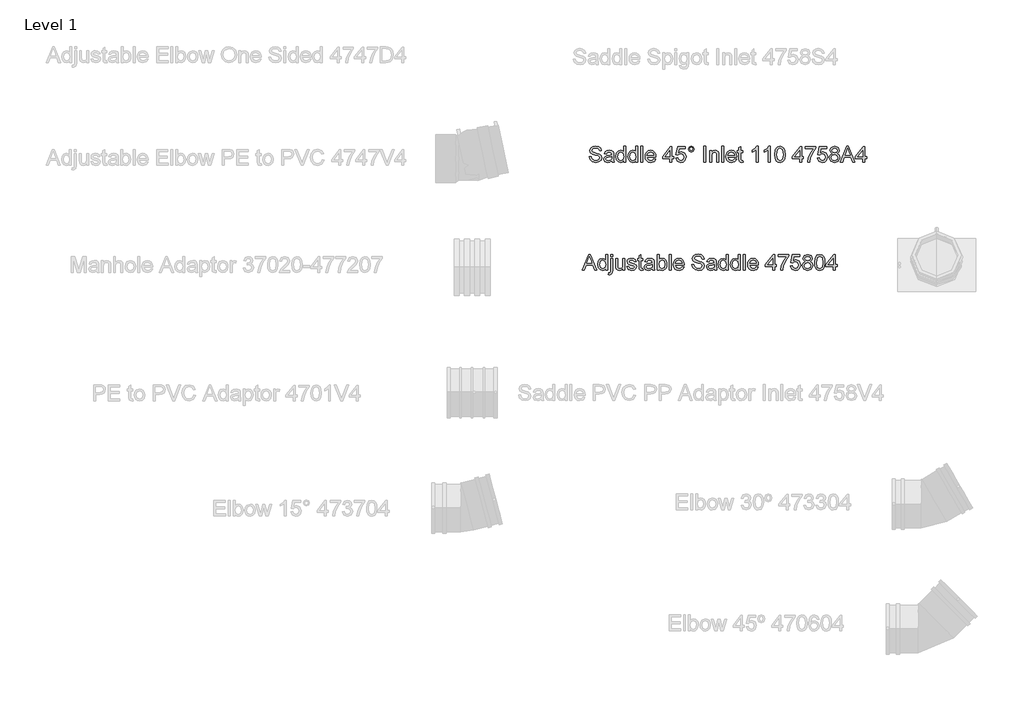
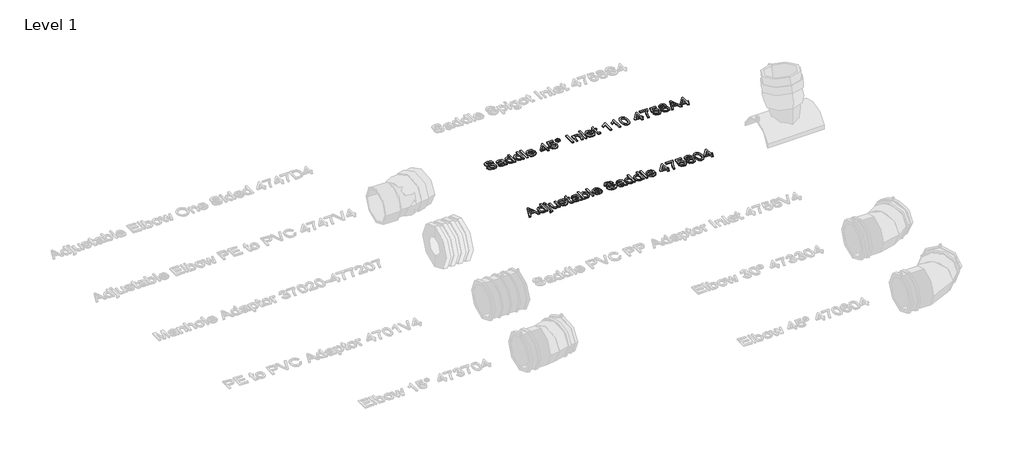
# One storey, part 38 of 38: 2 proxies.
"""IFC4 building model written with IfcOpenShell, lengths in millimetres."""

from ifc_helpers import new_model, si_unit, origin, origin_with_axes, place, context, project, spatial, polyline, outline, extrude, element, save

model = new_model("IFC4")

# Units and contexts
model_context = context("Model", 3, world=origin())
ifc_project = project(units=[si_unit("LENGTHUNIT", "METRE", prefix="MILLI")], contexts=[model_context])

# Site, building, storey
site = spatial("IfcSite", under=ifc_project)
building = spatial("IfcBuilding", under=site)
storey = spatial("IfcBuildingStorey", under=building, Name="Level 1", Elevation=0.0)

# Proxies
placement = place(None, origin())
element("IfcBuildingElementProxy", 1, Name="100 mm Arial", ObjectType="100 mm Arial", at=placement, inside=storey, context=model_context, shape_type="SweptSolid", body=[
    extrude(outline(polyline([(25836.3086763, 4423.9604372), (25843.6932917, 4423.9604372), (25846.0730993, 4416.5686103), (25851.8855993, 4411.8955334), (25860.7413686, 4410.1142834), (25868.4577147, 4411.4628411), (25873.4408878, 4415.1695718), (25875.077907, 4420.1238988), (25873.8519455, 4424.7320718), (25868.8327147, 4428.0854372), (25858.0803109, 4430.9051488), (25846.5057917, 4434.5469757), (25840.2245417, 4440.042168), (25838.1548301, 4447.3835141), (25840.7149263, 4455.7416872), (25848.1932917, 4461.6407257), (25859.140407, 4463.6527449), (25870.8230993, 4461.5469757), (25878.6115609, 4455.3594757), (25881.5394455, 4446.1142834), (25874.1548301, 4446.1142834), (25869.9721378, 4453.7008218), (25859.4288686, 4456.2681295), (25848.8567532, 4453.729668), (25845.5394455, 4447.5998603), (25847.890407, 4442.479668), (25859.9480993, 4438.354668), (25873.015407, 4434.6479372), (25880.1620417, 4428.6623603), (25882.4625224, 4420.3113988), (25879.8158878, 4411.4772641), (25872.2005032, 4405.0301488), (25861.0298301, 4402.729668), (25847.8399263, 4405.2104372), (25839.4961763, 4412.6815911), (25836.3086763, 4423.9604372)])), origin_with_axes(), (0.0, 0.0, 1.0), 5.0),
    extrude(outline(polyline([(25920.3086763, 4409.1912065), (25913.1476186, 4404.1863988), (25905.2365609, 4402.729668), (25894.5130032, 4406.2344757), (25890.7702147, 4415.1912065), (25892.1836763, 4421.0325526), (25895.8976186, 4425.2729372), (25901.0682917, 4427.6960141), (25907.4577147, 4428.8065911), (25920.265407, 4431.3450526), (25920.3086763, 4432.9892834), (25918.2750224, 4438.4412065), (25910.1115609, 4440.5758218), (25902.640407, 4439.1551488), (25899.077907, 4434.1142834), (25891.6932917, 4435.0373603), (25894.8880032, 4442.2488988), (25901.3206955, 4446.4748603), (25911.063484, 4447.9604372), (25920.0130032, 4446.6479372), (25925.0682917, 4443.3522641), (25927.3327147, 4438.3402449), (25927.6932917, 4431.8787065), (25927.6932917, 4422.6912065), (25928.0682917, 4409.8618795), (25929.5394455, 4403.6527449), (25922.1548301, 4403.6527449), (25920.3086763, 4409.1912065)]), holes=[polyline([(25920.3086763, 4423.9604372), (25908.3952147, 4421.6960141), (25902.0418493, 4420.4988988), (25899.1644455, 4418.5517834), (25898.1548301, 4415.7104372), (25900.3543493, 4411.7152449), (25906.8086763, 4410.1142834), (25914.2798301, 4411.8811103), (25919.0971378, 4416.1575526), (25920.265407, 4421.8690911), (25920.3086763, 4423.9604372)])]), origin_with_axes(), (0.0, 0.0, 1.0), 5.0),
    extrude(outline(polyline([(25964.6163686, 4403.6527449), (25964.6163686, 4410.6190911), (25959.7305513, 4404.7020238), (25952.9769455, 4402.729668), (25943.8327147, 4405.5854372), (25937.3711763, 4413.5541872), (25935.077907, 4425.3017834), (25937.1908878, 4437.0565911), (25943.5226186, 4445.1479372), (25952.9480993, 4447.9604372), (25959.7557917, 4445.948418), (25964.6163686, 4440.7200526), (25964.6163686, 4462.729668), (25972.000984, 4462.729668), (25972.000984, 4403.6527449), (25964.6163686, 4403.6527449)]), holes=[polyline([(25942.4625224, 4425.3306295), (25945.7942532, 4413.9003411), (25953.6548301, 4410.1142834), (25961.421657, 4413.7272641), (25964.6163686, 4424.7681295), (25961.3639647, 4436.7537065), (25953.3519455, 4440.5758218), (25945.577907, 4436.9051488), (25942.4625224, 4425.3306295)])]), origin_with_axes(), (0.0, 0.0, 1.0), 5.0),
    extrude(outline(polyline([(26009.8471378, 4403.6527449), (26009.8471378, 4410.6190911), (26004.9613205, 4404.7020238), (25998.2077147, 4402.729668), (25989.063484, 4405.5854372), (25982.6019455, 4413.5541872), (25980.3086763, 4425.3017834), (25982.421657, 4437.0565911), (25988.7533878, 4445.1479372), (25998.1788686, 4447.9604372), (26004.9865609, 4445.948418), (26009.8471378, 4440.7200526), (26009.8471378, 4462.729668), (26017.2317532, 4462.729668), (26017.2317532, 4403.6527449), (26009.8471378, 4403.6527449)]), holes=[polyline([(25987.6932917, 4425.3306295), (25991.0250224, 4413.9003411), (25998.8855993, 4410.1142834), (26006.6524263, 4413.7272641), (26009.8471378, 4424.7681295), (26006.594734, 4436.7537065), (25998.5827147, 4440.5758218), (25990.8086763, 4436.9051488), (25987.6932917, 4425.3306295)])]), origin_with_axes(), (0.0, 0.0, 1.0), 5.0),
    extrude(outline(polyline([(26028.3086763, 4403.6527449), (26028.3086763, 4462.729668), (26035.6932917, 4462.729668), (26035.6932917, 4403.6527449), (26028.3086763, 4403.6527449)])), origin_with_axes(), (0.0, 0.0, 1.0), 5.0),
    extrude(outline(polyline([(26077.1452147, 4416.5758218), (26084.3855993, 4415.6527449), (26077.6139647, 4406.1190911), (26065.000984, 4402.729668), (26056.3363205, 4404.1918074), (26049.6692532, 4408.5782257), (26045.4180513, 4415.604067), (26044.000984, 4424.9844757), (26045.4324743, 4434.6803891), (26049.7269455, 4441.9315911), (26056.3038686, 4446.4532257), (26064.5827147, 4447.9604372), (26072.6037484, 4446.4568315), (26079.0130032, 4441.9460141), (26083.2155272, 4434.7092353), (26084.6163686, 4425.0277449), (26084.5730993, 4423.0373603), (26051.3855993, 4423.0373603), (26055.6331955, 4413.4460141), (26065.1452147, 4410.1142834), (26072.3855993, 4411.6575526), (26077.1452147, 4416.5758218)]), holes=[polyline([(26051.3855993, 4430.4219757), (26077.2317532, 4430.4219757), (26074.2750224, 4437.1142834), (26064.5538686, 4440.5758218), (26055.4601186, 4437.8138026), (26051.3855993, 4430.4219757)])]), origin_with_axes(), (0.0, 0.0, 1.0), 5.0),
    extrude(outline(polyline([(26137.2317532, 4403.6527449), (26137.2317532, 4417.4988988), (26110.4625224, 4417.4988988), (26110.4625224, 4424.8835141), (26139.077907, 4461.8065911), (26144.6163686, 4461.8065911), (26144.6163686, 4424.8835141), (26152.000984, 4424.8835141), (26152.000984, 4417.4988988), (26144.6163686, 4417.4988988), (26144.6163686, 4403.6527449), (26137.2317532, 4403.6527449)]), holes=[polyline([(26137.2317532, 4424.8835141), (26137.2317532, 4447.7008218), (26119.5490609, 4424.8835141), (26137.2317532, 4424.8835141)])]), origin_with_axes(), (0.0, 0.0, 1.0), 5.0),
    extrude(outline(polyline([(26158.4625224, 4419.3450526), (26165.8471378, 4420.2681295), (26169.5682917, 4412.6599565), (26177.2846378, 4410.1142834), (26186.5442532, 4413.6551488), (26189.8471378, 4423.0517834), (26186.7533878, 4431.8210141), (26177.4000224, 4435.0373603), (26170.9168493, 4433.7537065), (26166.7702147, 4430.4219757), (26159.3855993, 4431.3450526), (26165.8471378, 4461.8065911), (26194.4625224, 4461.8065911), (26194.4625224, 4454.4219757), (26171.8182917, 4454.4219757), (26168.6596378, 4438.1527449), (26179.4625224, 4442.4219757), (26192.0899263, 4437.1287065), (26197.2317532, 4423.5133218), (26192.6019455, 4409.8113988), (26185.952907, 4404.5001007), (26177.2557917, 4402.729668), (26164.2245417, 4407.2801488), (26158.4625224, 4419.3450526)])), origin_with_axes(), (0.0, 0.0, 1.0), 5.0),
    extrude(outline(polyline([(26205.5394455, 4452.5902449), (26208.7918493, 4460.4219757), (26216.6019455, 4463.6527449), (26224.4625224, 4460.4219757), (26227.6932917, 4452.5902449), (26224.4408878, 4444.7513026), (26216.6019455, 4441.4988988), (26208.7918493, 4444.729668), (26205.5394455, 4452.5902449)]), holes=[polyline([(26210.1548301, 4452.5758218), (26212.0514647, 4448.0037065), (26216.6307917, 4446.1142834), (26221.1812724, 4448.0037065), (26223.077907, 4452.5758218), (26221.1812724, 4457.1479372), (26216.6307917, 4459.0373603), (26212.0514647, 4457.1479372), (26210.1548301, 4452.5758218)])]), origin_with_axes(), (0.0, 0.0, 1.0), 5.0),
    extrude(outline(polyline([(26263.6932917, 4403.6527449), (26263.6932917, 4462.729668), (26271.077907, 4462.729668), (26271.077907, 4403.6527449), (26263.6932917, 4403.6527449)])), origin_with_axes(), (0.0, 0.0, 1.0), 5.0),
    extrude(outline(polyline([(26284.9240609, 4403.6527449), (26284.9240609, 4447.0373603), (26292.3086763, 4447.0373603), (26292.3086763, 4440.979668), (26297.9553109, 4446.2152449), (26305.6644455, 4447.9604372), (26312.6380032, 4446.5541872), (26317.3976186, 4442.8618795), (26319.6115609, 4437.4315911), (26320.000984, 4430.292168), (26320.000984, 4403.6527449), (26312.6163686, 4403.6527449), (26312.6163686, 4429.2969757), (26311.765407, 4435.8306295), (26308.7581955, 4439.2849565), (26303.688484, 4440.5758218), (26295.6764647, 4437.6767834), (26292.3086763, 4426.6719757), (26292.3086763, 4403.6527449), (26284.9240609, 4403.6527449)])), origin_with_axes(), (0.0, 0.0, 1.0), 5.0),
    extrude(outline(polyline([(26330.1548301, 4403.6527449), (26330.1548301, 4462.729668), (26337.5394455, 4462.729668), (26337.5394455, 4403.6527449), (26330.1548301, 4403.6527449)])), origin_with_axes(), (0.0, 0.0, 1.0), 5.0),
    extrude(outline(polyline([(26378.9913686, 4416.5758218), (26386.2317532, 4415.6527449), (26379.4601186, 4406.1190911), (26366.8471378, 4402.729668), (26358.1824743, 4404.1918074), (26351.515407, 4408.5782257), (26347.2642051, 4415.604067), (26345.8471378, 4424.9844757), (26347.2786282, 4434.6803891), (26351.5730993, 4441.9315911), (26358.1500224, 4446.4532257), (26366.4288686, 4447.9604372), (26374.4499022, 4446.4568315), (26380.859157, 4441.9460141), (26385.0616811, 4434.7092353), (26386.4625224, 4425.0277449), (26386.4192532, 4423.0373603), (26353.2317532, 4423.0373603), (26357.4793493, 4413.4460141), (26366.9913686, 4410.1142834), (26374.2317532, 4411.6575526), (26378.9913686, 4416.5758218)]), holes=[polyline([(26353.2317532, 4430.4219757), (26379.077907, 4430.4219757), (26376.1211763, 4437.1142834), (26366.4000224, 4440.5758218), (26357.3062724, 4437.8138026), (26353.2317532, 4430.4219757)])]), origin_with_axes(), (0.0, 0.0, 1.0), 5.0),
    extrude(outline(polyline([(26409.5394455, 4409.8113988), (26410.4625224, 4403.4363988), (26404.938484, 4402.729668), (26398.750984, 4403.9556295), (26395.6644455, 4407.1719757), (26394.7702147, 4415.5517834), (26394.7702147, 4439.6527449), (26389.2317532, 4439.6527449), (26389.2317532, 4447.0373603), (26394.7702147, 4447.0373603), (26394.7702147, 4457.5806295), (26402.1548301, 4461.9219757), (26402.1548301, 4447.0373603), (26409.5394455, 4447.0373603), (26409.5394455, 4439.6527449), (26402.1548301, 4439.6527449), (26402.1548301, 4415.7681295), (26402.5442532, 4411.9604372), (26403.8062724, 4410.6118795), (26406.3230993, 4410.1142834), (26409.5394455, 4409.8113988)])), origin_with_axes(), (0.0, 0.0, 1.0), 5.0),
    extrude(outline(polyline([(26465.8471378, 4403.6527449), (26458.4625224, 4403.6527449), (26458.4625224, 4449.6912065), (26451.4673301, 4444.7080334), (26443.6932917, 4440.979668), (26443.6932917, 4447.9604372), (26454.5178109, 4454.8690911), (26461.0875224, 4462.729668), (26465.8471378, 4462.729668), (26465.8471378, 4403.6527449)])), origin_with_axes(), (0.0, 0.0, 1.0), 5.0),
    extrude(outline(polyline([(26511.077907, 4403.6527449), (26503.6932917, 4403.6527449), (26503.6932917, 4449.6912065), (26496.6980993, 4444.7080334), (26488.9240609, 4440.979668), (26488.9240609, 4447.9604372), (26499.7485801, 4454.8690911), (26506.3182917, 4462.729668), (26511.077907, 4462.729668), (26511.077907, 4403.6527449)])), origin_with_axes(), (0.0, 0.0, 1.0), 5.0),
    extrude(outline(polyline([(26528.6163686, 4432.7152449), (26530.7870417, 4449.7128411), (26537.234157, 4459.5133218), (26548.000984, 4462.729668), (26556.625984, 4460.8258218), (26562.5827147, 4455.3378411), (26566.0442532, 4446.5974565), (26567.3855993, 4432.7152449), (26565.2365609, 4415.7897641), (26558.8110801, 4405.9676488), (26548.000984, 4402.729668), (26540.327907, 4404.135918), (26534.500984, 4408.354668), (26530.0875224, 4418.3462545), (26528.6163686, 4432.7152449)]), holes=[polyline([(26536.000984, 4432.729668), (26539.4625224, 4414.3907257), (26548.000984, 4410.1142834), (26556.5394455, 4414.4051488), (26560.000984, 4432.729668), (26556.6548301, 4450.8594757), (26547.9144455, 4455.3450526), (26539.577907, 4451.3931295), (26536.000984, 4432.729668)])]), origin_with_axes(), (0.0, 0.0, 1.0), 5.0),
    extrude(outline(polyline([(26620.9240609, 4403.6527449), (26620.9240609, 4417.4988988), (26594.1548301, 4417.4988988), (26594.1548301, 4424.8835141), (26622.7702147, 4461.8065911), (26628.3086763, 4461.8065911), (26628.3086763, 4424.8835141), (26635.6932917, 4424.8835141), (26635.6932917, 4417.4988988), (26628.3086763, 4417.4988988), (26628.3086763, 4403.6527449), (26620.9240609, 4403.6527449)]), holes=[polyline([(26620.9240609, 4424.8835141), (26620.9240609, 4447.7008218), (26603.2413686, 4424.8835141), (26620.9240609, 4424.8835141)])]), origin_with_axes(), (0.0, 0.0, 1.0), 5.0),
    extrude(outline(polyline([(26642.1548301, 4454.4219757), (26642.1548301, 4461.8065911), (26680.9240609, 4461.8065911), (26680.9240609, 4455.8354372), (26669.9264647, 4439.948418), (26661.5105993, 4419.7056295), (26658.7702147, 4403.6527449), (26651.3855993, 4403.6527449), (26654.3206955, 4420.3113988), (26662.375984, 4439.1407257), (26673.5394455, 4454.4219757), (26642.1548301, 4454.4219757)])), origin_with_axes(), (0.0, 0.0, 1.0), 5.0),
    extrude(outline(polyline([(26687.3855993, 4419.3450526), (26694.7702147, 4420.2681295), (26698.4913686, 4412.6599565), (26706.2077147, 4410.1142834), (26715.4673301, 4413.6551488), (26718.7702147, 4423.0517834), (26715.6764647, 4431.8210141), (26706.3230993, 4435.0373603), (26699.8399263, 4433.7537065), (26695.6932917, 4430.4219757), (26688.3086763, 4431.3450526), (26694.7702147, 4461.8065911), (26723.3855993, 4461.8065911), (26723.3855993, 4454.4219757), (26700.7413686, 4454.4219757), (26697.5827147, 4438.1527449), (26708.3855993, 4442.4219757), (26721.0130032, 4437.1287065), (26726.1548301, 4423.5133218), (26721.5250224, 4409.8113988), (26714.875984, 4404.5001007), (26706.1788686, 4402.729668), (26693.1476186, 4407.2801488), (26687.3855993, 4419.3450526)])), origin_with_axes(), (0.0, 0.0, 1.0), 5.0),
    extrude(outline(polyline([(26743.375984, 4436.1912065), (26736.6476186, 4440.7777449), (26734.4625224, 4447.917168), (26739.2221378, 4458.4604372), (26751.9000224, 4462.729668), (26764.6932917, 4458.3594757), (26769.5394455, 4447.7152449), (26767.3831955, 4440.7561103), (26760.8423301, 4436.1912065), (26768.6956955, 4430.4003411), (26771.3855993, 4420.8450526), (26766.0490609, 4407.9508218), (26752.000984, 4402.729668), (26737.952907, 4407.9724565), (26732.6163686, 4421.0469757), (26735.4144455, 4430.8258218), (26743.375984, 4436.1912065)]), holes=[polyline([(26741.8471378, 4447.7008218), (26744.4649263, 4441.9027449), (26752.0875224, 4439.6527449), (26759.5586763, 4441.8883218), (26762.1548301, 4447.3690911), (26759.4721378, 4453.0445718), (26752.000984, 4455.3450526), (26744.5081955, 4453.0950526), (26741.8471378, 4447.7008218)]), polyline([(26740.000984, 4421.3065911), (26741.234157, 4415.7464949), (26745.5971378, 4411.5854372), (26752.0586763, 4410.1142834), (26760.8567532, 4413.2080334), (26764.000984, 4421.0758218), (26760.7557917, 4429.0950526), (26751.813484, 4432.2681295), (26743.1235801, 4429.1383218), (26740.000984, 4421.3065911)])]), origin_with_axes(), (0.0, 0.0, 1.0), 5.0),
    extrude(outline(polyline([(26773.7365609, 4403.6527449), (26797.3182917, 4462.729668), (26803.6067532, 4462.729668), (26827.188484, 4403.6527449), (26819.3855993, 4403.6527449), (26812.6211763, 4422.1142834), (26788.2894455, 4422.1142834), (26781.5394455, 4403.6527449), (26773.7365609, 4403.6527449)]), holes=[polyline([(26791.000984, 4429.4988988), (26809.9240609, 4429.4988988), (26804.6019455, 4444.0229372), (26800.4625224, 4455.3450526), (26796.7846378, 4445.292168), (26791.000984, 4429.4988988)])]), origin_with_axes(), (0.0, 0.0, 1.0), 5.0),
    extrude(outline(polyline([(26856.3086763, 4403.6527449), (26856.3086763, 4417.4988988), (26829.5394455, 4417.4988988), (26829.5394455, 4424.8835141), (26858.1548301, 4461.8065911), (26863.6932917, 4461.8065911), (26863.6932917, 4424.8835141), (26871.077907, 4424.8835141), (26871.077907, 4417.4988988), (26863.6932917, 4417.4988988), (26863.6932917, 4403.6527449), (26856.3086763, 4403.6527449)]), holes=[polyline([(26856.3086763, 4424.8835141), (26856.3086763, 4447.7008218), (26838.625984, 4424.8835141), (26856.3086763, 4424.8835141)])]), origin_with_axes(), (0.0, 0.0, 1.0), 5.0),
])
element("IfcBuildingElementProxy", 2, Name="100 mm Arial", ObjectType="100 mm Arial", at=placement, inside=storey, context=model_context, shape_type="SweptSolid", body=[
    extrude(outline(polyline([(25809.8301876, 4000.2509717), (25833.4119184, 4059.3278948), (25839.7003799, 4059.3278948), (25863.2821107, 4000.2509717), (25855.4792261, 4000.2509717), (25848.714803, 4018.7125102), (25824.3830722, 4018.7125102), (25817.6330722, 4000.2509717), (25809.8301876, 4000.2509717)]), holes=[polyline([(25827.0946107, 4026.0971256), (25846.0176876, 4026.0971256), (25840.6955722, 4040.621164), (25836.5561492, 4051.9432794), (25832.8782645, 4041.8903948), (25827.0946107, 4026.0971256)])]), origin_with_axes(), (0.0, 0.0, 1.0), 5.0),
    extrude(outline(polyline([(25897.0176876, 4000.2509717), (25897.0176876, 4007.2173179), (25892.1318703, 4001.3002506), (25885.3782645, 3999.3278948), (25876.2340338, 4002.183664), (25869.7724953, 4010.152414), (25867.4792261, 4021.9000102), (25869.5922068, 4033.6548179), (25875.9239376, 4041.746164), (25885.3494184, 4044.558664), (25892.1571107, 4042.5466448), (25897.0176876, 4037.3182794), (25897.0176876, 4059.3278948), (25904.402303, 4059.3278948), (25904.402303, 4000.2509717), (25897.0176876, 4000.2509717)]), holes=[polyline([(25874.8638415, 4021.9288563), (25878.1955722, 4010.4985679), (25886.0561492, 4006.7125102), (25893.8229761, 4010.3254909), (25897.0176876, 4021.3663563), (25893.7652838, 4033.3519333), (25885.7532645, 4037.1740486), (25877.9792261, 4033.5033756), (25874.8638415, 4021.9288563)])]), origin_with_axes(), (0.0, 0.0, 1.0), 5.0),
    extrude(outline(polyline([(25915.4792261, 4051.9432794), (25915.4792261, 4059.3278948), (25922.8638415, 4059.3278948), (25922.8638415, 4051.9432794), (25915.4792261, 4051.9432794)])), origin_with_axes(), (0.0, 0.0, 1.0), 5.0),
    extrude(outline(polyline([(25906.1763415, 3983.6067409), (25907.7340338, 3990.6307794), (25911.1234568, 3990.0971256), (25914.4047068, 3991.5610679), (25915.4792261, 3998.8807794), (25915.4792261, 4043.6355871), (25922.8638415, 4043.6355871), (25922.8638415, 3997.9288563), (25920.7724953, 3986.7942409), (25911.9455722, 3982.7125102), (25906.1763415, 3983.6067409)])), origin_with_axes(), (0.0, 0.0, 1.0), 5.0),
    extrude(outline(polyline([(25961.6330722, 4000.2509717), (25961.6330722, 4007.7077025), (25955.8494184, 4001.4228467), (25948.3061492, 3999.3278948), (25941.3614376, 4000.7990486), (25936.5729761, 4004.4913563), (25934.3734568, 4009.9288563), (25933.9407645, 4016.7942409), (25933.9407645, 4043.6355871), (25941.3253799, 4043.6355871), (25941.3253799, 4020.2702025), (25941.7724953, 4012.7413563), (25944.6931684, 4008.3206833), (25950.1955722, 4006.7125102), (25956.3614376, 4008.3567409), (25960.4359568, 4012.8351063), (25961.6330722, 4021.0634717), (25961.6330722, 4043.6355871), (25969.0176876, 4043.6355871), (25969.0176876, 4000.2509717), (25961.6330722, 4000.2509717)])), origin_with_axes(), (0.0, 0.0, 1.0), 5.0),
    extrude(outline(polyline([(25976.402303, 4013.1740486), (25983.7869184, 4014.0971256), (25987.2051876, 4008.6163563), (25995.0369184, 4006.7125102), (26002.5657645, 4008.4577025), (26005.0176876, 4012.5538563), (26002.5513415, 4015.871164), (25994.9503799, 4017.9769333), (25983.8301876, 4021.589914), (25978.9768222, 4025.808664), (25977.3253799, 4031.7653948), (25978.652303, 4037.2677986), (25982.2724953, 4041.4721256), (25986.9672068, 4043.6572217), (25993.3205722, 4044.558664), (26002.3061492, 4043.1091448), (26008.0176876, 4039.1860679), (26010.5561492, 4032.558664), (26003.1715338, 4031.6355871), (26000.3950915, 4035.7101063), (25993.8974953, 4037.1740486), (25986.8301876, 4035.7750102), (25984.7099953, 4032.5153948), (25985.589803, 4030.3663563), (25988.3446107, 4028.7365486), (25994.7051876, 4027.1644333), (26005.5441299, 4023.6884717), (26010.5777838, 4019.7509717), (26012.402303, 4013.3327025), (26010.2604761, 4006.2653948), (26004.0801876, 4001.1379909), (25994.9359568, 3999.3278948), (25982.0561492, 4002.8182794), (25976.402303, 4013.1740486)])), origin_with_axes(), (0.0, 0.0, 1.0), 5.0),
    extrude(outline(polyline([(26036.402303, 4006.4096256), (26037.3253799, 4000.0346256), (26031.8013415, 3999.3278948), (26025.6138415, 4000.5538563), (26022.527303, 4003.7702025), (26021.6330722, 4012.1500102), (26021.6330722, 4036.2509717), (26016.0946107, 4036.2509717), (26016.0946107, 4043.6355871), (26021.6330722, 4043.6355871), (26021.6330722, 4054.1788563), (26029.0176876, 4058.5202025), (26029.0176876, 4043.6355871), (26036.402303, 4043.6355871), (26036.402303, 4036.2509717), (26029.0176876, 4036.2509717), (26029.0176876, 4012.3663563), (26029.4071107, 4008.558664), (26030.6691299, 4007.2101063), (26033.1859568, 4006.7125102), (26036.402303, 4006.4096256)])), origin_with_axes(), (0.0, 0.0, 1.0), 5.0),
    extrude(outline(polyline([(26071.4792261, 4005.7894333), (26064.3181684, 4000.7846256), (26056.4071107, 3999.3278948), (26045.683553, 4002.8327025), (26041.9407645, 4011.7894333), (26043.3542261, 4017.6307794), (26047.0681684, 4021.871164), (26052.2388415, 4024.2942409), (26058.6282645, 4025.4048179), (26071.4359568, 4027.9432794), (26071.4792261, 4029.5875102), (26069.4455722, 4035.0394333), (26061.2821107, 4037.1740486), (26053.8109568, 4035.7533756), (26050.2484568, 4030.7125102), (26042.8638415, 4031.6355871), (26046.058553, 4038.8471256), (26052.4912453, 4043.0730871), (26062.2340338, 4044.558664), (26071.183553, 4043.246164), (26076.2388415, 4039.9504909), (26078.5032645, 4034.9384717), (26078.8638415, 4028.4769333), (26078.8638415, 4019.2894333), (26079.2388415, 4006.4601063), (26080.7099953, 4000.2509717), (26073.3253799, 4000.2509717), (26071.4792261, 4005.7894333)]), holes=[polyline([(26071.4792261, 4020.558664), (26059.5657645, 4018.2942409), (26053.2123992, 4017.0971256), (26050.3349953, 4015.1500102), (26049.3253799, 4012.308664), (26051.5248992, 4008.3134717), (26057.9792261, 4006.7125102), (26065.4503799, 4008.4793371), (26070.2676876, 4012.7557794), (26071.4359568, 4018.4673179), (26071.4792261, 4020.558664)])]), origin_with_axes(), (0.0, 0.0, 1.0), 5.0),
    extrude(outline(polyline([(26096.402303, 4000.2509717), (26089.0176876, 4000.2509717), (26089.0176876, 4059.3278948), (26096.402303, 4059.3278948), (26096.402303, 4037.4192409), (26101.5729761, 4042.7738083), (26107.9984568, 4044.558664), (26115.3974953, 4042.9504909), (26121.1378799, 4038.4288563), (26124.6643222, 4031.3976063), (26125.9407645, 4022.5923179), (26124.6192501, 4012.7341448), (26120.6547068, 4005.4000102), (26114.8367982, 4000.8459236), (26107.9551876, 3999.3278948), (26101.3890818, 4001.2858275), (26096.402303, 4007.1596256), (26096.402303, 4000.2509717)]), holes=[polyline([(26096.402303, 4022.246164), (26098.4215338, 4011.9192409), (26107.3205722, 4006.7125102), (26115.2244184, 4010.5490486), (26118.5561492, 4021.9865486), (26115.3614376, 4033.4673179), (26107.6378799, 4037.1740486), (26099.7340338, 4033.3375102), (26096.402303, 4022.246164)])]), origin_with_axes(), (0.0, 0.0, 1.0), 5.0),
    extrude(outline(polyline([(26134.2484568, 4000.2509717), (26134.2484568, 4059.3278948), (26141.6330722, 4059.3278948), (26141.6330722, 4000.2509717), (26134.2484568, 4000.2509717)])), origin_with_axes(), (0.0, 0.0, 1.0), 5.0),
    extrude(outline(polyline([(26183.0849953, 4013.1740486), (26190.3253799, 4012.2509717), (26183.5537453, 4002.7173179), (26170.9407645, 3999.3278948), (26162.2761011, 4000.7900342), (26155.6090338, 4005.1764525), (26151.3578318, 4012.2022938), (26149.9407645, 4021.5827025), (26151.3722549, 4031.2786159), (26155.6667261, 4038.5298179), (26162.2436492, 4043.0514525), (26170.5224953, 4044.558664), (26178.543529, 4043.0550583), (26184.9527838, 4038.5442409), (26189.1553078, 4031.3074621), (26190.5561492, 4021.6259717), (26190.5128799, 4019.6355871), (26157.3253799, 4019.6355871), (26161.5729761, 4010.0442409), (26171.0849953, 4006.7125102), (26178.3253799, 4008.2557794), (26183.0849953, 4013.1740486)]), holes=[polyline([(26157.3253799, 4027.0202025), (26183.1715338, 4027.0202025), (26180.214803, 4033.7125102), (26170.4936492, 4037.1740486), (26161.3998992, 4034.4120294), (26157.3253799, 4027.0202025)])]), origin_with_axes(), (0.0, 0.0, 1.0), 5.0),
    extrude(outline(polyline([(26219.1715338, 4020.558664), (26226.5561492, 4020.558664), (26228.9359568, 4013.1668371), (26234.7484568, 4008.4937602), (26243.6042261, 4006.7125102), (26251.3205722, 4008.0610679), (26256.3037453, 4011.7677986), (26257.9407645, 4016.7221256), (26256.714803, 4021.3302986), (26251.6955722, 4024.683664), (26240.9431684, 4027.5033756), (26229.3686492, 4031.1452025), (26223.0873992, 4036.6403948), (26221.0176876, 4043.9817409), (26223.5777838, 4052.339914), (26231.0561492, 4058.2389525), (26242.0032645, 4060.2509717), (26253.6859568, 4058.1452025), (26261.4744184, 4051.9577025), (26264.402303, 4042.7125102), (26257.0176876, 4042.7125102), (26252.8349953, 4050.2990486), (26242.2917261, 4052.8663563), (26231.7196107, 4050.3278948), (26228.402303, 4044.1980871), (26230.7532645, 4039.0778948), (26242.8109568, 4034.9528948), (26255.8782645, 4031.246164), (26263.0248992, 4025.2605871), (26265.3253799, 4016.9096256), (26262.6787453, 4008.0754909), (26255.0633607, 4001.6283756), (26243.8926876, 3999.3278948), (26230.7027838, 4001.808664), (26222.3590338, 4009.2798179), (26219.1715338, 4020.558664)])), origin_with_axes(), (0.0, 0.0, 1.0), 5.0),
    extrude(outline(polyline([(26303.1715338, 4005.7894333), (26296.0104761, 4000.7846256), (26288.0994184, 3999.3278948), (26277.3758607, 4002.8327025), (26273.6330722, 4011.7894333), (26275.0465338, 4017.6307794), (26278.7604761, 4021.871164), (26283.9311492, 4024.2942409), (26290.3205722, 4025.4048179), (26303.1282645, 4027.9432794), (26303.1715338, 4029.5875102), (26301.1378799, 4035.0394333), (26292.9744184, 4037.1740486), (26285.5032645, 4035.7533756), (26281.9407645, 4030.7125102), (26274.5561492, 4031.6355871), (26277.7508607, 4038.8471256), (26284.183553, 4043.0730871), (26293.9263415, 4044.558664), (26302.8758607, 4043.246164), (26307.9311492, 4039.9504909), (26310.1955722, 4034.9384717), (26310.5561492, 4028.4769333), (26310.5561492, 4019.2894333), (26310.9311492, 4006.4601063), (26312.402303, 4000.2509717), (26305.0176876, 4000.2509717), (26303.1715338, 4005.7894333)]), holes=[polyline([(26303.1715338, 4020.558664), (26291.2580722, 4018.2942409), (26284.9047068, 4017.0971256), (26282.027303, 4015.1500102), (26281.0176876, 4012.308664), (26283.2172068, 4008.3134717), (26289.6715338, 4006.7125102), (26297.1426876, 4008.4793371), (26301.9599953, 4012.7557794), (26303.1282645, 4018.4673179), (26303.1715338, 4020.558664)])]), origin_with_axes(), (0.0, 0.0, 1.0), 5.0),
    extrude(outline(polyline([(26347.4792261, 4000.2509717), (26347.4792261, 4007.2173179), (26342.5934088, 4001.3002506), (26335.839803, 3999.3278948), (26326.6955722, 4002.183664), (26320.2340338, 4010.152414), (26317.9407645, 4021.9000102), (26320.0537453, 4033.6548179), (26326.3854761, 4041.746164), (26335.8109568, 4044.558664), (26342.6186492, 4042.5466448), (26347.4792261, 4037.3182794), (26347.4792261, 4059.3278948), (26354.8638415, 4059.3278948), (26354.8638415, 4000.2509717), (26347.4792261, 4000.2509717)]), holes=[polyline([(26325.3253799, 4021.9288563), (26328.6571107, 4010.4985679), (26336.5176876, 4006.7125102), (26344.2845145, 4010.3254909), (26347.4792261, 4021.3663563), (26344.2268222, 4033.3519333), (26336.214803, 4037.1740486), (26328.4407645, 4033.5033756), (26325.3253799, 4021.9288563)])]), origin_with_axes(), (0.0, 0.0, 1.0), 5.0),
    extrude(outline(polyline([(26392.7099953, 4000.2509717), (26392.7099953, 4007.2173179), (26387.824178, 4001.3002506), (26381.0705722, 3999.3278948), (26371.9263415, 4002.183664), (26365.464803, 4010.152414), (26363.1715338, 4021.9000102), (26365.2845145, 4033.6548179), (26371.6162453, 4041.746164), (26381.0417261, 4044.558664), (26387.8494184, 4042.5466448), (26392.7099953, 4037.3182794), (26392.7099953, 4059.3278948), (26400.0946107, 4059.3278948), (26400.0946107, 4000.2509717), (26392.7099953, 4000.2509717)]), holes=[polyline([(26370.5561492, 4021.9288563), (26373.8878799, 4010.4985679), (26381.7484568, 4006.7125102), (26389.5152838, 4010.3254909), (26392.7099953, 4021.3663563), (26389.4575915, 4033.3519333), (26381.4455722, 4037.1740486), (26373.6715338, 4033.5033756), (26370.5561492, 4021.9288563)])]), origin_with_axes(), (0.0, 0.0, 1.0), 5.0),
    extrude(outline(polyline([(26411.1715338, 4000.2509717), (26411.1715338, 4059.3278948), (26418.5561492, 4059.3278948), (26418.5561492, 4000.2509717), (26411.1715338, 4000.2509717)])), origin_with_axes(), (0.0, 0.0, 1.0), 5.0),
    extrude(outline(polyline([(26460.0080722, 4013.1740486), (26467.2484568, 4012.2509717), (26460.4768222, 4002.7173179), (26447.8638415, 3999.3278948), (26439.199178, 4000.7900342), (26432.5321107, 4005.1764525), (26428.2809088, 4012.2022938), (26426.8638415, 4021.5827025), (26428.2953318, 4031.2786159), (26432.589803, 4038.5298179), (26439.1667261, 4043.0514525), (26447.4455722, 4044.558664), (26455.4666059, 4043.0550583), (26461.8758607, 4038.5442409), (26466.0783847, 4031.3074621), (26467.4792261, 4021.6259717), (26467.4359568, 4019.6355871), (26434.2484568, 4019.6355871), (26438.496053, 4010.0442409), (26448.0080722, 4006.7125102), (26455.2484568, 4008.2557794), (26460.0080722, 4013.1740486)]), holes=[polyline([(26434.2484568, 4027.0202025), (26460.0946107, 4027.0202025), (26457.1378799, 4033.7125102), (26447.4167261, 4037.1740486), (26438.3229761, 4034.4120294), (26434.2484568, 4027.0202025)])]), origin_with_axes(), (0.0, 0.0, 1.0), 5.0),
    extrude(outline(polyline([(26520.0946107, 4000.2509717), (26520.0946107, 4014.0971256), (26493.3253799, 4014.0971256), (26493.3253799, 4021.4817409), (26521.9407645, 4058.4048179), (26527.4792261, 4058.4048179), (26527.4792261, 4021.4817409), (26534.8638415, 4021.4817409), (26534.8638415, 4014.0971256), (26527.4792261, 4014.0971256), (26527.4792261, 4000.2509717), (26520.0946107, 4000.2509717)]), holes=[polyline([(26520.0946107, 4021.4817409), (26520.0946107, 4044.2990486), (26502.4119184, 4021.4817409), (26520.0946107, 4021.4817409)])]), origin_with_axes(), (0.0, 0.0, 1.0), 5.0),
    extrude(outline(polyline([(26541.3253799, 4051.0202025), (26541.3253799, 4058.4048179), (26580.0946107, 4058.4048179), (26580.0946107, 4052.433664), (26569.0970145, 4036.5466448), (26560.6811492, 4016.3038563), (26557.9407645, 4000.2509717), (26550.5561492, 4000.2509717), (26553.4912453, 4016.9096256), (26561.5465338, 4035.7389525), (26572.7099953, 4051.0202025), (26541.3253799, 4051.0202025)])), origin_with_axes(), (0.0, 0.0, 1.0), 5.0),
    extrude(outline(polyline([(26586.5561492, 4015.9432794), (26593.9407645, 4016.8663563), (26597.6619184, 4009.2581833), (26605.3782645, 4006.7125102), (26614.6378799, 4010.2533756), (26617.9407645, 4019.6500102), (26614.8470145, 4028.4192409), (26605.4936492, 4031.6355871), (26599.0104761, 4030.3519333), (26594.8638415, 4027.0202025), (26587.4792261, 4027.9432794), (26593.9407645, 4058.4048179), (26622.5561492, 4058.4048179), (26622.5561492, 4051.0202025), (26599.9119184, 4051.0202025), (26596.7532645, 4034.7509717), (26607.5561492, 4039.0202025), (26620.183553, 4033.7269333), (26625.3253799, 4020.1115486), (26620.6955722, 4006.4096256), (26614.0465338, 4001.0983275), (26605.3494184, 3999.3278948), (26592.3181684, 4003.8783756), (26586.5561492, 4015.9432794)])), origin_with_axes(), (0.0, 0.0, 1.0), 5.0),
    extrude(outline(polyline([(26642.5465338, 4032.7894333), (26635.8181684, 4037.3759717), (26633.6330722, 4044.5153948), (26638.3926876, 4055.058664), (26651.0705722, 4059.3278948), (26663.8638415, 4054.9577025), (26668.7099953, 4044.3134717), (26666.5537453, 4037.3543371), (26660.0128799, 4032.7894333), (26667.8662453, 4026.9985679), (26670.5561492, 4017.4432794), (26665.2196107, 4004.5490486), (26651.1715338, 3999.3278948), (26637.1234568, 4004.5706833), (26631.7869184, 4017.6452025), (26634.5849953, 4027.4240486), (26642.5465338, 4032.7894333)]), holes=[polyline([(26641.0176876, 4044.2990486), (26643.6354761, 4038.5009717), (26651.2580722, 4036.2509717), (26658.7292261, 4038.4865486), (26661.3253799, 4043.9673179), (26658.6426876, 4049.6427986), (26651.1715338, 4051.9432794), (26643.6787453, 4049.6932794), (26641.0176876, 4044.2990486)]), polyline([(26639.1715338, 4017.9048179), (26640.4047068, 4012.3447217), (26644.7676876, 4008.183664), (26651.2292261, 4006.7125102), (26660.027303, 4009.8062602), (26663.1715338, 4017.6740486), (26659.9263415, 4025.6932794), (26650.9840338, 4028.8663563), (26642.2941299, 4025.7365486), (26639.1715338, 4017.9048179)])]), origin_with_axes(), (0.0, 0.0, 1.0), 5.0),
    extrude(outline(polyline([(26677.0176876, 4029.3134717), (26679.1883607, 4046.3110679), (26685.6354761, 4056.1115486), (26696.402303, 4059.3278948), (26705.027303, 4057.4240486), (26710.9840338, 4051.9360679), (26714.4455722, 4043.1956833), (26715.7869184, 4029.3134717), (26713.6378799, 4012.3879909), (26707.2123992, 4002.5658756), (26696.402303, 3999.3278948), (26688.7292261, 4000.7341448), (26682.902303, 4004.9528948), (26678.4888415, 4014.9444813), (26677.0176876, 4029.3134717)]), holes=[polyline([(26684.402303, 4029.3278948), (26687.8638415, 4010.9889525), (26696.402303, 4006.7125102), (26704.9407645, 4011.0033756), (26708.402303, 4029.3278948), (26705.0561492, 4047.4577025), (26696.3157645, 4051.9432794), (26687.9792261, 4047.9913563), (26684.402303, 4029.3278948)])]), origin_with_axes(), (0.0, 0.0, 1.0), 5.0),
    extrude(outline(polyline([(26746.2484568, 4000.2509717), (26746.2484568, 4014.0971256), (26719.4792261, 4014.0971256), (26719.4792261, 4021.4817409), (26748.0946107, 4058.4048179), (26753.6330722, 4058.4048179), (26753.6330722, 4021.4817409), (26761.0176876, 4021.4817409), (26761.0176876, 4014.0971256), (26753.6330722, 4014.0971256), (26753.6330722, 4000.2509717), (26746.2484568, 4000.2509717)]), holes=[polyline([(26746.2484568, 4021.4817409), (26746.2484568, 4044.2990486), (26728.5657645, 4021.4817409), (26746.2484568, 4021.4817409)])]), origin_with_axes(), (0.0, 0.0, 1.0), 5.0),
])

save(model, "model.ifc")
